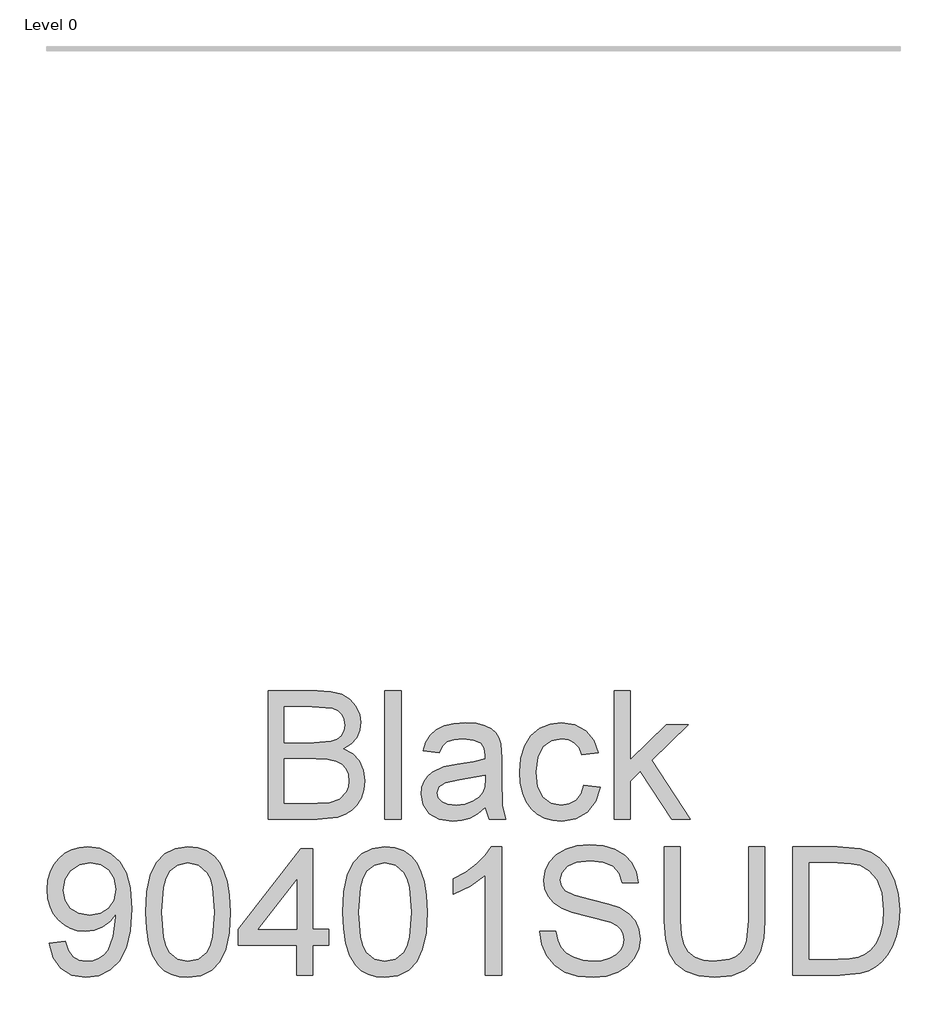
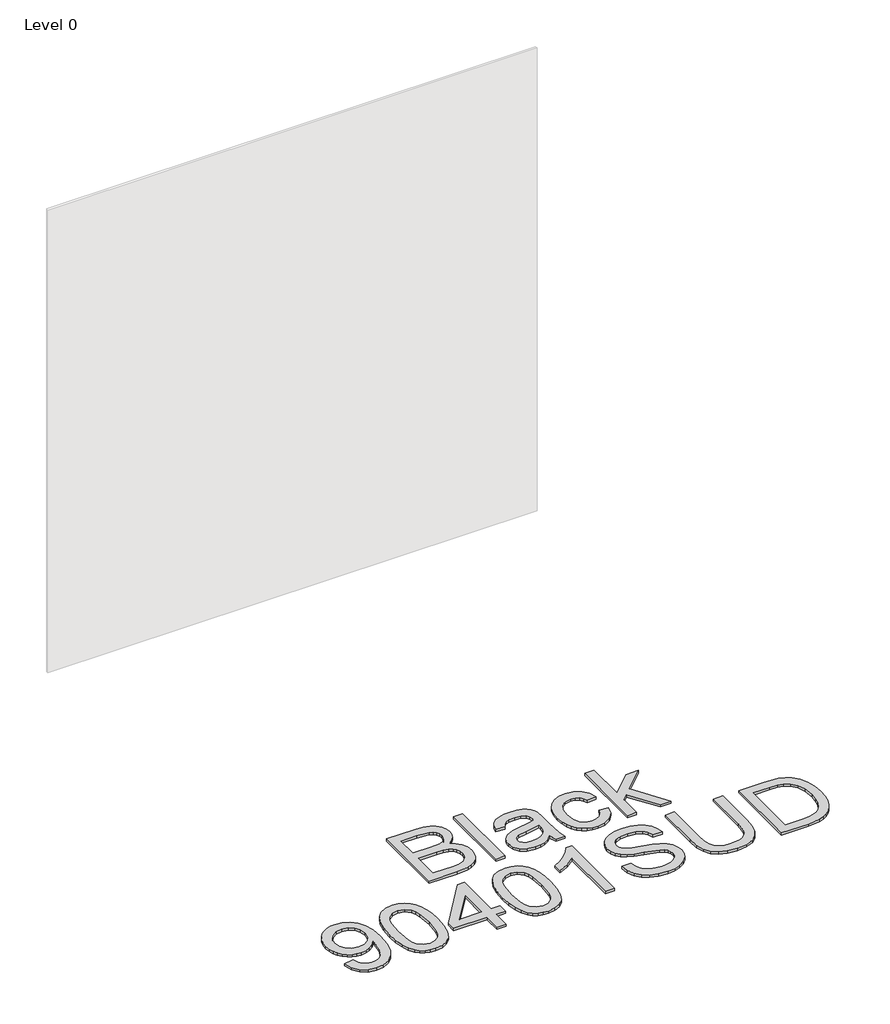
# One storey, part 2 of 4: 1 proxy.
"""IFC4 building model written with IfcOpenShell, lengths in millimetres."""

from ifc_helpers import new_model, si_unit, origin, origin_with_axes, place, context, project, spatial, polyline, outline, extrude, element, save

model = new_model("IFC4")

# Units and contexts
model_context = context("Model", 3, world=origin())
ifc_project = project(units=[si_unit("LENGTHUNIT", "METRE", prefix="MILLI")], contexts=[model_context])

# Site, building, storey
site = spatial("IfcSite", under=ifc_project)
building = spatial("IfcBuilding", under=site)
storey = spatial("IfcBuildingStorey", under=building, Name="Level 0", Elevation=0.0)

# Proxy
placement = place(None, origin())
element("IfcBuildingElementProxy", 1, Name="300mm Arial", ObjectType="300mm Arial", at=placement, inside=storey, context=model_context, shape_type="SweptSolid", body=[
    extrude(outline(polyline([(-4930.9647892, -7002.860494), (-4930.9647892, -6701.4915635), (-4815.9648775, -6701.4915635), (-4784.336223, -6703.7080526), (-4759.6421441, -6710.3575196), (-4740.7146154, -6721.6055116), (-4726.3856117, -6737.6175755), (-4717.3633058, -6756.4531336), (-4714.3558705, -6776.1716086), (-4716.8850592, -6794.317388), (-4724.4726253, -6811.3779155), (-4737.1737512, -6826.3047274), (-4755.0436191, -6838.0493601), (-4733.6972663, -6849.1961846), (-4717.9243258, -6866.1555446), (-4708.18465, -6887.8054), (-4704.9380914, -6913.0237108), (-4707.1545804, -6934.0389697), (-4713.8040475, -6953.5275184), (-4723.7276643, -6970.1006023), (-4735.7666026, -6982.3694669), (-4750.5094735, -6991.253817), (-4768.5448883, -6997.6733578), (-4816.8477943, -7002.860494), (-4930.9647892, -7002.860494)]), holes=[polyline([(-4893.2936729, -6823.9226915), (-4824.4997398, -6823.9226915), (-4784.3270259, -6820.68533), (-4770.2647367, -6815.1027207), (-4760.1571788, -6806.7426024), (-4754.0595348, -6795.7337336), (-4752.0269868, -6782.2048733), (-4753.921579, -6769.071486), (-4759.6053559, -6757.630356), (-4768.8207998, -6748.7000206), (-4781.3103936, -6743.0990172), (-4829.7236641, -6739.1626798), (-4893.2936729, -6739.1626798), (-4893.2936729, -6823.9226915)]), polyline([(-4893.2936729, -6965.1893777), (-4816.0384539, -6965.1893777), (-4788.0794223, -6963.7178497), (-4764.42461, -6955.5140812), (-4748.752837, -6938.7754504), (-4744.145115, -6926.9480443), (-4742.6092077, -6913.3915928), (-4744.4118295, -6897.6462434), (-4749.8196948, -6884.1081859), (-4759.265065, -6873.5223815), (-4773.1802015, -6866.6337912), (-4792.8894794, -6862.8538037), (-4819.7172739, -6861.5938078), (-4893.2936729, -6861.5938078), (-4893.2936729, -6965.1893777)])]), origin_with_axes(), (0.0, 0.0, 1.0), 10.0),
    extrude(outline(polyline([(-4657.849196, -7002.860494), (-4657.849196, -6701.4915635), (-4620.1780797, -6701.4915635), (-4620.1780797, -7002.860494), (-4657.849196, -7002.860494)])), origin_with_axes(), (0.0, 0.0, 1.0), 10.0),
    extrude(outline(polyline([(-4422.4047191, -6974.6071568), (-4440.4033457, -6990.0398064), (-4458.9354012, -7000.1381672), (-4478.4239499, -7005.7115794), (-4499.2920561, -7007.5693835), (-4530.7735578, -7003.0996173), (-4553.9961088, -6989.6903186), (-4568.3159154, -6969.3280501), (-4573.0891843, -6943.9993748), (-4571.2865625, -6928.3827841), (-4565.8786972, -6914.2009331), (-4557.536973, -6902.0608273), (-4546.9327744, -6892.5694718), (-4520.5556354, -6880.2086368), (-4487.9612906, -6874.5432541), (-4449.4440457, -6868.5835657), (-4422.6254483, -6861.5938078), (-4422.4047191, -6853.2060983), (-4424.9982871, -6836.3938912), (-4432.7789913, -6825.3942195), (-4450.1798097, -6817.2272392), (-4474.4232332, -6814.5049125), (-4496.8640349, -6816.3167313), (-4512.5358079, -6821.7521878), (-4523.2227799, -6831.8045633), (-4530.7091785, -6847.4671392), (-4568.3802948, -6842.7582497), (-4561.8411923, -6822.156858), (-4552.0831224, -6805.9700502), (-4538.1955771, -6793.590821), (-4519.2680484, -6784.4121652), (-4496.1190739, -6778.7283884), (-4469.5671909, -6776.8337961), (-4444.1005597, -6778.5076592), (-4423.9130353, -6783.5292485), (-4408.6919177, -6791.0800264), (-4398.1245074, -6800.3414556), (-4391.1163554, -6811.7917827), (-4386.5730127, -6825.9092543), (-4384.7336028, -6858.8714811), (-4384.7336028, -6905.7396473), (-4382.8206164, -6971.1858542), (-4375.3158237, -7002.860494), (-4412.98694, -7002.860494), (-4422.4047191, -6974.6071568)]), holes=[polyline([(-4422.4047191, -6899.2649241), (-4483.1788247, -6910.8164188), (-4515.5892285, -6916.9232599), (-4530.2677201, -6926.8560738), (-4535.418068, -6941.3506244), (-4532.6129678, -6952.5526311), (-4524.1976671, -6961.7312869), (-4510.3561071, -6967.8565221), (-4491.2722286, -6969.8982672), (-4471.0387188, -6967.64499), (-4453.1596539, -6960.8851583), (-4438.6651033, -6950.9247533), (-4428.5851366, -6939.069756), (-4424.1153704, -6926.8560738), (-4422.6254483, -6909.933502), (-4422.4047191, -6899.2649241)])]), origin_with_axes(), (0.0, 0.0, 1.0), 10.0),
    extrude(outline(polyline([(-4191.6691317, -6922.8093718), (-4153.9980154, -6927.5182614), (-4164.5010464, -6961.0231141), (-4184.2379154, -6986.3425924), (-4211.3508184, -7002.2626857), (-4243.9819514, -7007.5693835), (-4265.1098743, -7005.7184772), (-4284.0534977, -7000.1657584), (-4300.8128219, -6990.9112269), (-4315.3878467, -6977.9548829), (-4327.1853624, -6961.5404481), (-4335.6121594, -6941.9116444), (-4340.6682375, -6919.0684718), (-4342.3535969, -6893.0109302), (-4339.4749203, -6859.4876834), (-4330.8388905, -6830.4342028), (-4316.3075517, -6806.9725286), (-4295.7429481, -6790.2247008), (-4271.1408397, -6780.1815223), (-4244.4969862, -6776.8337961), (-4212.6659966, -6781.4323211), (-4187.2177596, -6795.2278959), (-4168.9616156, -6817.4847566), (-4158.7069049, -6847.4671392), (-4196.3780212, -6852.1760288), (-4203.2114293, -6835.7409006), (-4213.852416, -6823.9594797), (-4227.7123702, -6816.8685543), (-4244.2026806, -6814.5049125), (-4268.5472716, -6819.1586197), (-4287.8702734, -6833.1197414), (-4300.4794288, -6857.1424357), (-4304.6824806, -6891.9808606), (-4300.5713993, -6927.2883351), (-4288.2381554, -6951.3938029), (-4269.2646415, -6965.2721511), (-4245.2327502, -6969.8982672), (-4225.7258074, -6967.0103936), (-4209.7321377, -6958.3467726), (-4198.0978696, -6943.6866751), (-4191.6691317, -6922.8093718)])), origin_with_axes(), (0.0, 0.0, 1.0), 10.0),
    extrude(outline(polyline([(-4121.0357886, -7002.860494), (-4121.0357886, -6701.4915635), (-4083.3646723, -6701.4915635), (-4083.3646723, -6863.4332178), (-3998.8989662, -6781.5426857), (-3946.8068757, -6781.5426857), (-4032.3026514, -6864.4632874), (-3942.0979862, -7002.860494), (-3986.0966728, -7002.860494), (-4059.3051898, -6890.6564855), (-4083.3646723, -6913.9802039), (-4083.3646723, -7002.860494), (-4121.0357886, -7002.860494)])), origin_with_axes(), (0.0, 0.0, 1.0), 10.0),
    extrude(outline(polyline([(-5444.2337489, -7293.4427149), (-5406.5626326, -7288.7338254), (-5400.1246977, -7310.1169663), (-5389.6400608, -7324.6758963), (-5375.3662394, -7333.0360146), (-5357.5607508, -7335.8227207), (-5341.5854752, -7334.029296), (-5327.0633334, -7328.6490218), (-5314.996804, -7320.2705094), (-5306.3883653, -7309.4823699), (-5294.0643184, -7276.7408723), (-5288.6196649, -7233.0364913), (-5288.8403941, -7225.6788514), (-5301.8910079, -7241.6081418), (-5318.9699295, -7254.2264942), (-5338.8447543, -7262.4486568), (-5360.2830776, -7265.1893777), (-5378.1782374, -7263.5155146), (-5394.6340589, -7258.4939254), (-5409.6505421, -7250.12461), (-5423.227687, -7238.4075684), (-5434.4779782, -7223.9544045), (-5442.5139006, -7207.3767221), (-5447.335454, -7188.6745212), (-5448.9426384, -7167.8478018), (-5447.257279, -7146.326705), (-5442.2012009, -7127.0129003), (-5433.7744039, -7109.9063875), (-5421.9768882, -7095.0071667), (-5407.6409867, -7082.9360387), (-5391.5990324, -7074.3138045), (-5373.8510254, -7069.1404639), (-5354.3969657, -7067.4160171), (-5326.2999783, -7071.3523544), (-5300.7229826, -7083.1613665), (-5279.3306445, -7102.254442), (-5263.7876302, -7128.0429699), (-5254.3238659, -7163.6907352), (-5251.1692778, -7212.3615232), (-5254.3146689, -7263.96617), (-5263.750842, -7303.8537754), (-5279.3950239, -7333.8269609), (-5301.164441, -7355.6883485), (-5328.1209942, -7369.0424649), (-5359.3265844, -7373.4938371), (-5391.5346531, -7368.2423216), (-5417.2312104, -7352.4877751), (-5435.2022459, -7327.2234791), (-5444.2337489, -7293.4427149)]), holes=[polyline([(-5288.8403941, -7166.964885), (-5292.9054902, -7141.4338745), (-5305.1007783, -7121.788976), (-5324.028307, -7109.262594), (-5348.2901245, -7105.0871334), (-5373.453253, -7109.5844908), (-5393.6131863, -7123.0765629), (-5406.8569382, -7143.7239399), (-5411.2715221, -7169.6872117), (-5407.0960615, -7192.964945), (-5394.5696795, -7211.4418182), (-5374.9063869, -7223.4991506), (-5349.3201941, -7227.5182614), (-5325.2515146, -7223.4991506), (-5305.8733305, -7211.4418182), (-5293.0986282, -7192.2843633), (-5288.8403941, -7166.964885)])]), origin_with_axes(), (0.0, 0.0, 1.0), 10.0),
    extrude(outline(polyline([(-5218.207051, -7220.5285035), (-5215.438739, -7172.2899768), (-5207.133803, -7133.8187172), (-5193.3750164, -7104.5261133), (-5174.2451526, -7083.8235541), (-5149.606256, -7071.5179013), (-5119.3203707, -7067.4160171), (-5096.1070168, -7069.8440382), (-5075.3216841, -7077.1281017), (-5057.9392598, -7088.983099), (-5044.9346313, -7105.1239216), (-5035.112182, -7125.4126136), (-5027.2762955, -7149.7112194), (-5022.1443417, -7180.5673217), (-5020.4336904, -7220.5285035), (-5023.1744113, -7268.4911186), (-5031.3965739, -7306.8704077), (-5045.0725871, -7336.1906027), (-5064.1748597, -7356.9759355), (-5088.8689386, -7369.3643617), (-5119.3203707, -7373.4938371), (-5140.0689153, -7371.7004123), (-5158.463015, -7366.3201381), (-5174.50267, -7357.3530145), (-5188.1878802, -7344.7990414), (-5201.3212675, -7322.1053209), (-5210.7022583, -7293.828991), (-5216.3308529, -7259.9700519), (-5218.207051, -7220.5285035)]), holes=[polyline([(-5180.5359347, -7220.4549271), (-5176.1213508, -7279.7115194), (-5170.6031209, -7299.9795181), (-5162.877599, -7314.0073184), (-5143.159124, -7330.3688702), (-5119.3203707, -7335.8227207), (-5095.4816175, -7330.3504761), (-5075.7631425, -7313.933742), (-5068.0376206, -7299.8829491), (-5062.5193907, -7279.6195489), (-5058.1048067, -7220.4549271), (-5062.3722379, -7162.5319069), (-5067.7065268, -7142.3305869), (-5075.1745313, -7127.9693935), (-5094.8562181, -7110.8076984), (-5119.7618291, -7105.0871334), (-5143.343065, -7110.1271167), (-5162.2889878, -7125.2470667), (-5170.2720271, -7140.8820515), (-5175.974198, -7161.9616898), (-5180.5359347, -7220.4549271)])]), origin_with_axes(), (0.0, 0.0, 1.0), 10.0),
    extrude(outline(polyline([(-4865.0403357, -7368.7849475), (-4865.0403357, -7298.1516044), (-5001.5981323, -7298.1516044), (-5001.5981323, -7260.4804881), (-4855.6225566, -7072.1249066), (-4827.3692194, -7072.1249066), (-4827.3692194, -7260.4804881), (-4789.6981031, -7260.4804881), (-4789.6981031, -7298.1516044), (-4827.3692194, -7298.1516044), (-4827.3692194, -7368.7849475), (-4865.0403357, -7368.7849475)]), holes=[polyline([(-4865.0403357, -7260.4804881), (-4865.0403357, -7144.0826249), (-4955.2450009, -7260.4804881), (-4865.0403357, -7260.4804881)])]), origin_with_axes(), (0.0, 0.0, 1.0), 10.0),
    extrude(outline(polyline([(-4756.7358763, -7220.5285035), (-4753.9675643, -7172.2899768), (-4745.6626282, -7133.8187172), (-4731.9038416, -7104.5261133), (-4712.7739779, -7083.8235541), (-4688.1350812, -7071.5179013), (-4657.849196, -7067.4160171), (-4634.6358421, -7069.8440382), (-4613.8505094, -7077.1281017), (-4596.4680851, -7088.983099), (-4583.4634566, -7105.1239216), (-4573.6410073, -7125.4126136), (-4565.8051208, -7149.7112194), (-4560.673167, -7180.5673217), (-4558.9625157, -7220.5285035), (-4561.7032366, -7268.4911186), (-4569.9253991, -7306.8704077), (-4583.6014123, -7336.1906027), (-4602.7036849, -7356.9759355), (-4627.3977638, -7369.3643617), (-4657.849196, -7373.4938371), (-4678.5977405, -7371.7004123), (-4696.9918403, -7366.3201381), (-4713.0314953, -7357.3530145), (-4726.7167055, -7344.7990414), (-4739.8500927, -7322.1053209), (-4749.2310836, -7293.828991), (-4754.8596781, -7259.9700519), (-4756.7358763, -7220.5285035)]), holes=[polyline([(-4719.06476, -7220.4549271), (-4714.650176, -7279.7115194), (-4709.1319461, -7299.9795181), (-4701.4064242, -7314.0073184), (-4681.6879493, -7330.3688702), (-4657.849196, -7335.8227207), (-4634.0104427, -7330.3504761), (-4614.2919678, -7313.933742), (-4606.5664459, -7299.8829491), (-4601.0482159, -7279.6195489), (-4596.633632, -7220.4549271), (-4600.9010631, -7162.5319069), (-4606.2353521, -7142.3305869), (-4613.7033566, -7127.9693935), (-4633.3850433, -7110.8076984), (-4658.2906544, -7105.0871334), (-4681.8718903, -7110.1271167), (-4700.817813, -7125.2470667), (-4708.8008523, -7140.8820515), (-4714.5030232, -7161.9616898), (-4719.06476, -7220.4549271)])]), origin_with_axes(), (0.0, 0.0, 1.0), 10.0),
    extrude(outline(polyline([(-4384.7336028, -7368.7849475), (-4422.4047191, -7368.7849475), (-4422.4047191, -7133.9290818), (-4458.0892726, -7159.3497277), (-4497.7469517, -7178.3692268), (-4497.7469517, -7142.7582497), (-4468.1600422, -7126.6634124), (-4442.5278642, -7107.5151545), (-4422.3219456, -7087.1528861), (-4409.0138145, -7067.4160171), (-4384.7336028, -7067.4160171), (-4384.7336028, -7368.7849475)])), origin_with_axes(), (0.0, 0.0, 1.0), 10.0),
    extrude(outline(polyline([(-4295.2647015, -7265.1893777), (-4257.5935852, -7265.1893777), (-4253.2709718, -7286.0942721), (-4245.4534794, -7302.8972822), (-4233.2581913, -7316.2330045), (-4215.8021906, -7326.7360355), (-4194.4650349, -7333.5510494), (-4170.6262816, -7335.8227207), (-4149.6386138, -7334.1028724), (-4131.2629081, -7328.9433274), (-4116.3728843, -7320.7763471), (-4105.8422622, -7310.0341929), (-4099.5790713, -7297.700949), (-4097.4913409, -7284.7606998), (-4099.0548394, -7272.1515444), (-4103.7453349, -7261.2530403), (-4113.2734785, -7251.9548229), (-4129.3499217, -7244.1465276), (-4184.2011272, -7229.7623415), (-4220.2075775, -7220.2433949), (-4243.2461874, -7211.1843008), (-4261.9989721, -7198.510766), (-4275.2887092, -7183.1516928), (-4283.2073692, -7165.4381747), (-4285.8469225, -7145.7013056), (-4282.5819698, -7123.637583), (-4272.7871116, -7103.0637824), (-4256.7198655, -7085.6261758), (-4234.6377487, -7072.9710352), (-4208.131851, -7065.2731044), (-4178.7932619, -7062.7071275), (-4147.0082575, -7065.3926661), (-4119.1963787, -7073.4492818), (-4096.3509068, -7086.7114277), (-4079.4651232, -7105.013557), (-4068.7781512, -7127.2152354), (-4064.5291142, -7152.1760288), (-4102.2002305, -7152.1760288), (-4109.116412, -7129.6984389), (-4123.5373862, -7113.4748429), (-4146.0701584, -7103.6523936), (-4177.3217339, -7100.3782438), (-4209.3090734, -7103.6156054), (-4231.2532344, -7113.3276901), (-4243.9451632, -7127.6199056), (-4248.1758062, -7144.5976597), (-4245.1775679, -7159.0738162), (-4236.1828531, -7170.7172813), (-4214.9192738, -7181.1283418), (-4174.6729835, -7191.7601314), (-4133.1391063, -7201.8584922), (-4108.012766, -7210.669266), (-4086.5376545, -7224.3360821), (-4071.5556603, -7241.2034716), (-4062.7540835, -7261.0874934), (-4059.8202246, -7283.8042066), (-4063.1955419, -7307.0267576), (-4073.3214939, -7328.869751), (-4089.7842131, -7347.668521), (-4112.1698325, -7361.7584014), (-4139.0895975, -7370.5599781), (-4169.1547536, -7373.4938371), (-4206.0625148, -7370.3300519), (-4236.4403705, -7360.8386964), (-4260.6378087, -7344.9829824), (-4279.0043174, -7322.7261217), (-4290.7949353, -7295.6132187), (-4295.2647015, -7265.1893777)])), origin_with_axes(), (0.0, 0.0, 1.0), 10.0),
    extrude(outline(polyline([(-3805.5401896, -7067.4160171), (-3767.8690733, -7067.4160171), (-3767.8690733, -7241.277048), (-3770.4258531, -7281.9923878), (-3778.0961927, -7313.3451308), (-3792.4251964, -7337.533372), (-3814.9579686, -7356.7552063), (-3845.7496916, -7369.3091794), (-3884.8555477, -7373.4938371), (-3923.1060782, -7369.8518053), (-3953.686269, -7358.92571), (-3976.6053173, -7341.0926303), (-3991.8724201, -7316.7296452), (-4000.4532677, -7284.052527), (-4003.3135502, -7241.277048), (-4003.3135502, -7067.4160171), (-3965.6424339, -7067.4160171), (-3965.6424339, -7239.9526728), (-3963.7846298, -7273.8070134), (-3958.2112176, -7297.3790523), (-3948.1128568, -7313.7038158), (-3932.6802071, -7325.8163305), (-3912.557062, -7333.3211232), (-3888.3872149, -7335.8227207), (-3850.0723051, -7330.8747079), (-3835.7295058, -7324.6896919), (-3824.5964769, -7316.0306694), (-3816.2593512, -7303.8537754), (-3810.3042614, -7287.1151446), (-3805.5401896, -7239.9526728), (-3805.5401896, -7067.4160171)])), origin_with_axes(), (0.0, 0.0, 1.0), 10.0),
    extrude(outline(polyline([(-3701.9446197, -7368.7849475), (-3701.9446197, -7067.4160171), (-3597.9811679, -7067.4160171), (-3544.1968202, -7071.7570246), (-3520.1741259, -7080.12634), (-3499.903828, -7093.3149095), (-3479.0633129, -7116.270746), (-3464.2192744, -7144.8183889), (-3455.3349243, -7178.406015), (-3452.3734742, -7216.4818015), (-3454.3784311, -7248.8278259), (-3460.3933017, -7277.2926953), (-3469.5535634, -7301.5269217), (-3480.9946934, -7321.1810173), (-3494.1648688, -7336.6964405), (-3508.5122667, -7348.5146496), (-3524.984183, -7357.2794381), (-3544.527914, -7363.6345996), (-3592.9779728, -7368.7849475), (-3701.9446197, -7368.7849475)]), holes=[polyline([(-3664.2735034, -7331.1138312), (-3597.6132859, -7331.1138312), (-3570.0405304, -7329.7526678), (-3549.1264389, -7325.6691777), (-3533.3443013, -7319.1024841), (-3521.1674073, -7310.2917103), (-3508.0800053, -7293.9853408), (-3498.248359, -7272.8781114), (-3492.0955326, -7246.8780514), (-3490.0445905, -7215.8931903), (-3494.0637013, -7174.8375597), (-3506.1210337, -7144.5240833), (-3523.9357193, -7123.7019623), (-3545.2268898, -7111.1203981), (-3566.8951393, -7106.5954496), (-3598.6433555, -7105.0871334), (-3664.2735034, -7105.0871334), (-3664.2735034, -7331.1138312)])]), origin_with_axes(), (0.0, 0.0, 1.0), 10.0),
])

save(model, "model.ifc")
